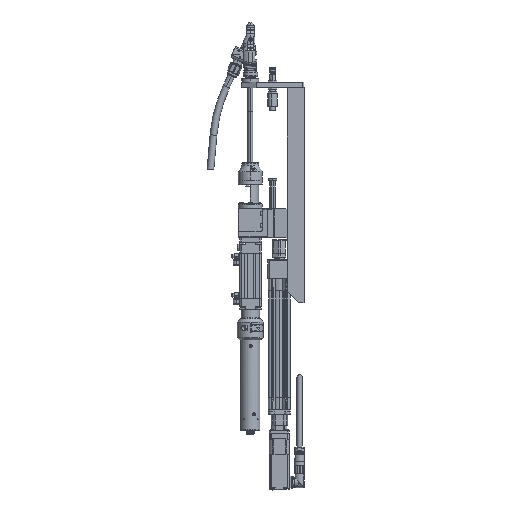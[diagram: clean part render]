
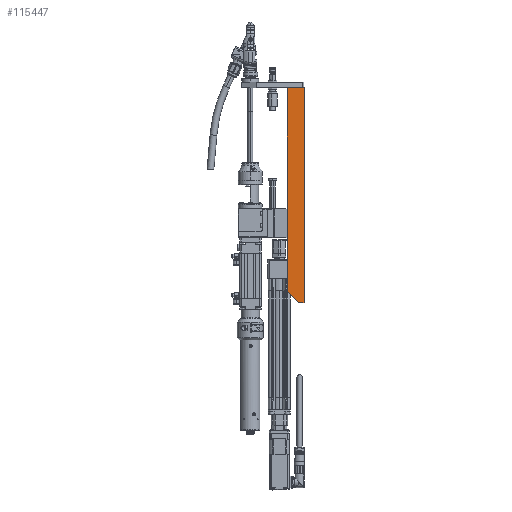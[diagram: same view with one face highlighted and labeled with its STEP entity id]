
A CAD part, left-side view. The second image highlights one B-rep face of the part: STEP entity #115447.
In plain terms, the highlighted planar face has unit normal (-1, 0, 0).
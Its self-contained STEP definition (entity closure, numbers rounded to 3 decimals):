
#1719 = DIRECTION ( 'NONE',  ( 0., 0., 1. ) ) ;
#2593 = VERTEX_POINT ( 'NONE', #66079 ) ;
#4348 = CARTESIAN_POINT ( 'NONE',  ( -29., 35., -200. ) ) ;
#7306 = CARTESIAN_POINT ( 'NONE',  ( -29., 35., 223. ) ) ;
#9752 = ORIENTED_EDGE ( 'NONE', *, *, #106191, .F. ) ;
#12732 = PLANE ( 'NONE',  #125694 ) ;
#13516 = CARTESIAN_POINT ( 'NONE',  ( -29., 0., 223. ) ) ;
#15320 = CARTESIAN_POINT ( 'NONE',  ( -29., 35., 223. ) ) ;
#15401 = CARTESIAN_POINT ( 'NONE',  ( -29., 0., 223. ) ) ;
#15657 = CARTESIAN_POINT ( 'NONE',  ( -29., 35., -223. ) ) ;
#23340 = DIRECTION ( 'NONE',  ( 0., -1., 0. ) ) ;
#28739 = DIRECTION ( 'NONE',  ( 1., 0., 0. ) ) ;
#29460 = VECTOR ( 'NONE', #46379, 1000. ) ;
#30748 = EDGE_CURVE ( 'NONE', #67084, #52844, #101908, .T. ) ;
#35017 = LINE ( 'NONE', #100037, #81783 ) ;
#35988 = EDGE_CURVE ( 'NONE', #2593, #67084, #58799, .T. ) ;
#39423 = VECTOR ( 'NONE', #50354, 1000. ) ;
#46379 = DIRECTION ( 'NONE',  ( 0., -1., 0. ) ) ;
#50354 = DIRECTION ( 'NONE',  ( 0., 0., 1. ) ) ;
#52673 = EDGE_CURVE ( 'NONE', #110319, #2593, #127898, .T. ) ;
#52844 = VERTEX_POINT ( 'NONE', #15401 ) ;
#56229 = ORIENTED_EDGE ( 'NONE', *, *, #129257, .F. ) ;
#58799 = LINE ( 'NONE', #15657, #29460 ) ;
#59139 = CARTESIAN_POINT ( 'NONE',  ( -29., 35., -200. ) ) ;
#62524 = ORIENTED_EDGE ( 'NONE', *, *, #35988, .T. ) ;
#66079 = CARTESIAN_POINT ( 'NONE',  ( -29., 12., -223. ) ) ;
#67084 = VERTEX_POINT ( 'NONE', #68719 ) ;
#68719 = CARTESIAN_POINT ( 'NONE',  ( -29., 0., -223. ) ) ;
#70194 = VECTOR ( 'NONE', #82565, 1000. ) ;
#77980 = VECTOR ( 'NONE', #1719, 1000. ) ;
#78624 = EDGE_LOOP ( 'NONE', ( #56229, #111470, #62524, #85638, #9752 ) ) ;
#80624 = FACE_OUTER_BOUND ( 'NONE', #78624, .T. ) ;
#81783 = VECTOR ( 'NONE', #23340, 1000. ) ;
#82565 = DIRECTION ( 'NONE',  ( 0., -0.707, -0.707 ) ) ;
#85638 = ORIENTED_EDGE ( 'NONE', *, *, #30748, .T. ) ;
#100037 = CARTESIAN_POINT ( 'NONE',  ( -29., 35., 223. ) ) ;
#101908 = LINE ( 'NONE', #13516, #77980 ) ;
#106191 = EDGE_CURVE ( 'NONE', #141783, #52844, #35017, .T. ) ;
#106601 = LINE ( 'NONE', #15320, #39423 ) ;
#110319 = VERTEX_POINT ( 'NONE', #59139 ) ;
#111470 = ORIENTED_EDGE ( 'NONE', *, *, #52673, .T. ) ;
#115447 = ADVANCED_FACE ( 'NONE', ( #80624 ), #12732, .F. ) ;
#125694 = AXIS2_PLACEMENT_3D ( 'NONE', #130260, #28739, #140513 ) ;
#127898 = LINE ( 'NONE', #4348, #70194 ) ;
#129257 = EDGE_CURVE ( 'NONE', #110319, #141783, #106601, .T. ) ;
#130260 = CARTESIAN_POINT ( 'NONE',  ( -29., 35., 223. ) ) ;
#140513 = DIRECTION ( 'NONE',  ( 0., 0., -1. ) ) ;
#141783 = VERTEX_POINT ( 'NONE', #7306 ) ;
